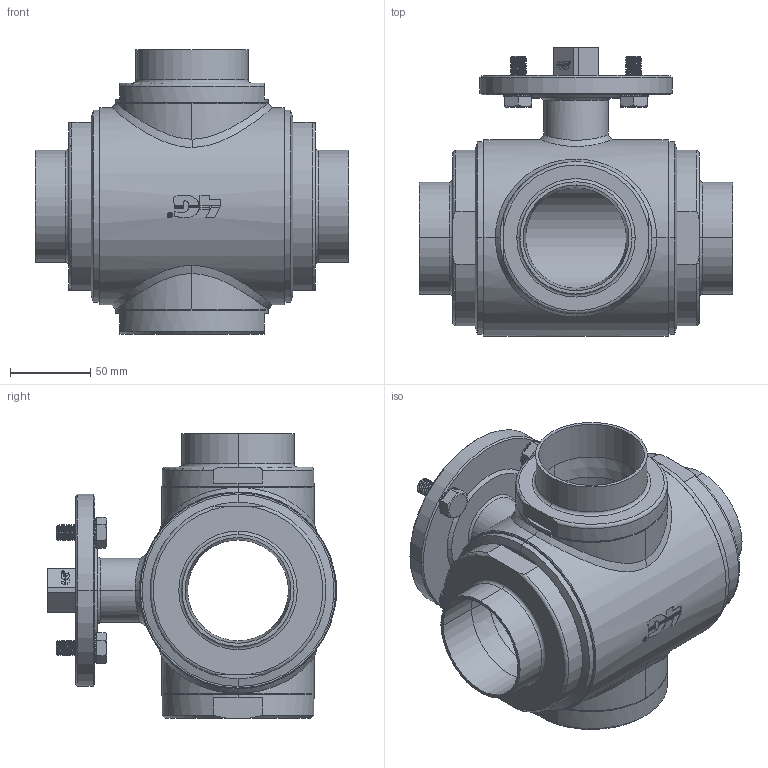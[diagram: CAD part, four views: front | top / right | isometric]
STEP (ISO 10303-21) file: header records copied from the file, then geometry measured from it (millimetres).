
FILE_DESCRIPTION((''),'2;1');
FILE_NAME('3030426S61F_SW0001','2024-11-20T14:42:31',('tecnico2'),('CDM Tecnoconsulting'),'CREO PARAMETRIC BY PTC INC, 2024063','CREO PARAMETRIC BY PTC INC, 2024063','');
FILE_SCHEMA(('CONFIG_CONTROL_DESIGN','SHAPE_APPEARANCE_LAYERS_GROUPS'));
Products named in the file (1): 3030426S61F_SW0001
Bounding box: 196 x 180.5 x 178 mm (x, y, z)
Volume: 1394532.9 mm3; surface area: 293636.7 mm2
Topology: 1 solids, 1 shells, 1814 faces, 5008 edges, 3255 vertices
Faces by surface type: plane 759, cylinder 498, cone 220, extrusion 167, bspline 130, torus 36, sphere 4
Entity records: 127490 total; most frequent: CARTESIAN_POINT 66135, ORIENTED_EDGE 10000, DIRECTION 7564, PRESENTATION_STYLE_ASSIGNMENT 5434, STYLED_ITEM 5057, CURVE_STYLE 5056, EDGE_CURVE 5000, VERTEX_POINT 3255
